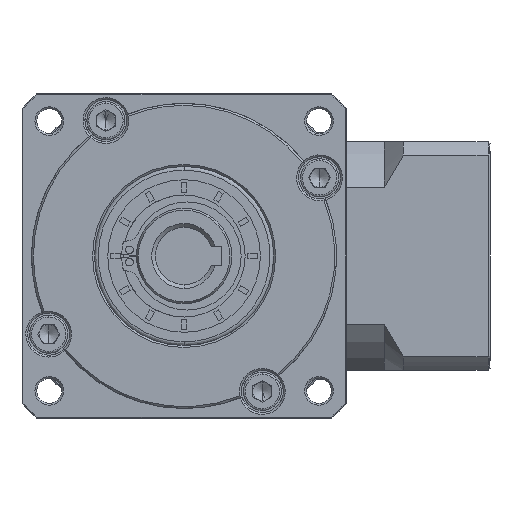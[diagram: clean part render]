
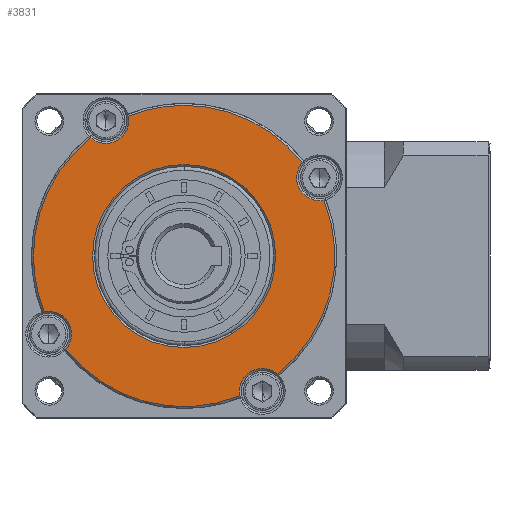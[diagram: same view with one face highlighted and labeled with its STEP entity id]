
A CAD part, left-side view. The second image highlights one B-rep face of the part: STEP entity #3831.
In plain terms, the highlighted planar face has unit normal (-1, 0, 0).
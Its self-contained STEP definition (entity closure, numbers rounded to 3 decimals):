
#135 = CARTESIAN_POINT ( 'NONE',  ( -86.29, -31.689, -122.437 ) ) ;
#724 = CARTESIAN_POINT ( 'NONE',  ( -86.29, -43.196, -107.937 ) ) ;
#1676 = VERTEX_POINT ( 'NONE', #103429 ) ;
#2286 = CARTESIAN_POINT ( 'NONE',  ( -86.29, -32.158, -153.444 ) ) ;
#3831 = ADVANCED_FACE ( 'NONE', ( #99800, #30374 ), #52690, .T. ) ;
#4969 = CARTESIAN_POINT ( 'NONE',  ( -86.29, -44.384, -107.818 ) ) ;
#5337 = DIRECTION ( 'NONE',  ( 1., 0., 0. ) ) ;
#6889 = EDGE_CURVE ( 'NONE', #140964, #48089, #34368, .T. ) ;
#7845 = DIRECTION ( 'NONE',  ( 1., 0., 0. ) ) ;
#8942 = CARTESIAN_POINT ( 'NONE',  ( -86.29, 27.818, -142.937 ) ) ;
#9012 = AXIS2_PLACEMENT_3D ( 'NONE', #76990, #168360, #90150 ) ;
#9733 = CARTESIAN_POINT ( 'NONE',  ( -86.29, 6.93, -85.741 ) ) ;
#10819 = VERTEX_POINT ( 'NONE', #44426 ) ;
#12511 = CARTESIAN_POINT ( 'NONE',  ( -86.29, -7.689, -82.937 ) ) ;
#14133 = VERTEX_POINT ( 'NONE', #69562 ) ;
#15595 = CIRCLE ( 'NONE', #115659, 39.5 ) ;
#15614 = EDGE_CURVE ( 'NONE', #113760, #24651, #130511, .T. ) ;
#17605 = AXIS2_PLACEMENT_3D ( 'NONE', #153493, #75264, #166673 ) ;
#22971 = ORIENTED_EDGE ( 'NONE', *, *, #163489, .F. ) ;
#24651 = VERTEX_POINT ( 'NONE', #724 ) ;
#25048 = AXIS2_PLACEMENT_3D ( 'NONE', #8942, #37036, #128346 ) ;
#30374 = FACE_BOUND ( 'NONE', #101115, .T. ) ;
#30471 = ORIENTED_EDGE ( 'NONE', *, *, #91103, .T. ) ;
#31683 = VERTEX_POINT ( 'NONE', #150695 ) ;
#32507 = EDGE_CURVE ( 'NONE', #158610, #1676, #15595, .T. ) ;
#33479 = ORIENTED_EDGE ( 'NONE', *, *, #141081, .T. ) ;
#34368 = CIRCLE ( 'NONE', #113489, 24. ) ;
#37036 = DIRECTION ( 'NONE',  ( 1., 0., 0. ) ) ;
#37195 = EDGE_CURVE ( 'NONE', #105732, #31683, #51547, .T. ) ;
#41074 = VERTEX_POINT ( 'NONE', #9733 ) ;
#41982 = DIRECTION ( 'NONE',  ( 1., 0., 0. ) ) ;
#43086 = EDGE_CURVE ( 'NONE', #41074, #105732, #44132, .T. ) ;
#44132 = CIRCLE ( 'NONE', #49722, 6. ) ;
#44426 = CARTESIAN_POINT ( 'NONE',  ( -86.29, 31.811, -122.437 ) ) ;
#45017 = ORIENTED_EDGE ( 'NONE', *, *, #141707, .F. ) ;
#45933 = VERTEX_POINT ( 'NONE', #57334 ) ;
#46054 = CIRCLE ( 'NONE', #101722, 6. ) ;
#47617 = CIRCLE ( 'NONE', #60407, 39.5 ) ;
#48089 = VERTEX_POINT ( 'NONE', #121733 ) ;
#49722 = AXIS2_PLACEMENT_3D ( 'NONE', #150804, #72613, #163984 ) ;
#51547 = CIRCLE ( 'NONE', #133987, 6. ) ;
#52690 = PLANE ( 'NONE',  #55059 ) ;
#55059 = AXIS2_PLACEMENT_3D ( 'NONE', #144677, #66450, #157760 ) ;
#57334 = CARTESIAN_POINT ( 'NONE',  ( -86.29, 23.319, -146.906 ) ) ;
#58005 = CARTESIAN_POINT ( 'NONE',  ( -86.29, -7.689, -122.437 ) ) ;
#59996 = CARTESIAN_POINT ( 'NONE',  ( -86.29, -43.196, -101.937 ) ) ;
#60407 = AXIS2_PLACEMENT_3D ( 'NONE', #58005, #149360, #71139 ) ;
#60531 = DIRECTION ( 'NONE',  ( 1., 0., 0. ) ) ;
#61445 = VERTEX_POINT ( 'NONE', #74864 ) ;
#62649 = AXIS2_PLACEMENT_3D ( 'NONE', #59996, #151324, #73110 ) ;
#64039 = VERTEX_POINT ( 'NONE', #2286 ) ;
#65746 = DIRECTION ( 'NONE',  ( 1., 0., 0. ) ) ;
#66450 = DIRECTION ( 'NONE',  ( -1., 0., 0. ) ) ;
#67914 = EDGE_CURVE ( 'NONE', #10819, #31683, #163674, .T. ) ;
#69509 = DIRECTION ( 'NONE',  ( 1., 0., 0. ) ) ;
#69562 = CARTESIAN_POINT ( 'NONE',  ( -86.29, 29.007, -137.055 ) ) ;
#70671 = DIRECTION ( 'NONE',  ( 1., 0., 0. ) ) ;
#71139 = DIRECTION ( 'NONE',  ( 0., 0., 1. ) ) ;
#71876 = ORIENTED_EDGE ( 'NONE', *, *, #128595, .F. ) ;
#72613 = DIRECTION ( 'NONE',  ( 1., 0., 0. ) ) ;
#73110 = DIRECTION ( 'NONE',  ( 0., 0., -1. ) ) ;
#74205 = CARTESIAN_POINT ( 'NONE',  ( -86.29, -7.689, -122.437 ) ) ;
#74864 = CARTESIAN_POINT ( 'NONE',  ( -86.29, -22.308, -159.132 ) ) ;
#75264 = DIRECTION ( 'NONE',  ( 1., 0., 0. ) ) ;
#76551 = AXIS2_PLACEMENT_3D ( 'NONE', #74205, #165613, #87358 ) ;
#76990 = CARTESIAN_POINT ( 'NONE',  ( -86.29, -43.196, -101.937 ) ) ;
#83567 = CARTESIAN_POINT ( 'NONE',  ( -86.29, -28.189, -157.944 ) ) ;
#83823 = CIRCLE ( 'NONE', #158131, 24. ) ;
#84109 = AXIS2_PLACEMENT_3D ( 'NONE', #143977, #65746, #157059 ) ;
#86090 = CARTESIAN_POINT ( 'NONE',  ( -86.29, -7.689, -122.437 ) ) ;
#87358 = DIRECTION ( 'NONE',  ( 0., 1., 0. ) ) ;
#90150 = DIRECTION ( 'NONE',  ( 0., 0., -1. ) ) ;
#91103 = EDGE_CURVE ( 'NONE', #61445, #64039, #46054, .T. ) ;
#96718 = DIRECTION ( 'NONE',  ( 0., 0., -1. ) ) ;
#97696 = CIRCLE ( 'NONE', #111528, 39.5 ) ;
#98016 = EDGE_CURVE ( 'NONE', #48089, #140964, #83823, .T. ) ;
#99194 = DIRECTION ( 'NONE',  ( 0., 0., 1. ) ) ;
#99800 = FACE_OUTER_BOUND ( 'NONE', #142716, .T. ) ;
#101115 = EDGE_LOOP ( 'NONE', ( #125132, #137143 ) ) ;
#101722 = AXIS2_PLACEMENT_3D ( 'NONE', #83567, #5337, #96718 ) ;
#103429 = CARTESIAN_POINT ( 'NONE',  ( -86.29, -38.697, -97.967 ) ) ;
#105732 = VERTEX_POINT ( 'NONE', #162618 ) ;
#111528 = AXIS2_PLACEMENT_3D ( 'NONE', #120126, #41982, #133312 ) ;
#111728 = ORIENTED_EDGE ( 'NONE', *, *, #156587, .F. ) ;
#113489 = AXIS2_PLACEMENT_3D ( 'NONE', #147746, #69509, #160835 ) ;
#113760 = VERTEX_POINT ( 'NONE', #4969 ) ;
#115659 = AXIS2_PLACEMENT_3D ( 'NONE', #86090, #7845, #99194 ) ;
#120126 = CARTESIAN_POINT ( 'NONE',  ( -86.29, -7.689, -122.437 ) ) ;
#121346 = ORIENTED_EDGE ( 'NONE', *, *, #37195, .T. ) ;
#121733 = CARTESIAN_POINT ( 'NONE',  ( -86.29, 16.311, -122.437 ) ) ;
#125132 = ORIENTED_EDGE ( 'NONE', *, *, #6889, .T. ) ;
#128346 = DIRECTION ( 'NONE',  ( 0., 0., -1. ) ) ;
#128595 = EDGE_CURVE ( 'NONE', #61445, #45933, #132459, .T. ) ;
#130511 = CIRCLE ( 'NONE', #9012, 6. ) ;
#131592 = ORIENTED_EDGE ( 'NONE', *, *, #15614, .T. ) ;
#132459 = CIRCLE ( 'NONE', #84109, 39.5 ) ;
#133312 = DIRECTION ( 'NONE',  ( 0., 1., 0. ) ) ;
#133987 = AXIS2_PLACEMENT_3D ( 'NONE', #148887, #70671, #162007 ) ;
#137143 = ORIENTED_EDGE ( 'NONE', *, *, #98016, .T. ) ;
#137792 = CIRCLE ( 'NONE', #62649, 6. ) ;
#138729 = CARTESIAN_POINT ( 'NONE',  ( -86.29, -7.689, -122.437 ) ) ;
#140964 = VERTEX_POINT ( 'NONE', #135 ) ;
#141081 = EDGE_CURVE ( 'NONE', #14133, #45933, #155372, .T. ) ;
#141707 = EDGE_CURVE ( 'NONE', #14133, #10819, #97696, .T. ) ;
#142716 = EDGE_LOOP ( 'NONE', ( #22971, #167130, #121346, #169575, #45017, #33479, #71876, #30471, #111728, #131592, #150361, #151080 ) ) ;
#143977 = CARTESIAN_POINT ( 'NONE',  ( -86.29, -7.689, -122.437 ) ) ;
#144677 = CARTESIAN_POINT ( 'NONE',  ( -86.29, -7.689, -122.437 ) ) ;
#147746 = CARTESIAN_POINT ( 'NONE',  ( -86.29, -7.689, -122.437 ) ) ;
#148887 = CARTESIAN_POINT ( 'NONE',  ( -86.29, 12.811, -86.929 ) ) ;
#149360 = DIRECTION ( 'NONE',  ( 1., 0., 0. ) ) ;
#150361 = ORIENTED_EDGE ( 'NONE', *, *, #151575, .T. ) ;
#150695 = CARTESIAN_POINT ( 'NONE',  ( -86.29, 16.781, -91.429 ) ) ;
#150804 = CARTESIAN_POINT ( 'NONE',  ( -86.29, 12.811, -86.929 ) ) ;
#151080 = ORIENTED_EDGE ( 'NONE', *, *, #32507, .F. ) ;
#151324 = DIRECTION ( 'NONE',  ( 1., 0., 0. ) ) ;
#151575 = EDGE_CURVE ( 'NONE', #24651, #1676, #137792, .T. ) ;
#151845 = DIRECTION ( 'NONE',  ( 0., -1., 0. ) ) ;
#153493 = CARTESIAN_POINT ( 'NONE',  ( -86.29, -7.689, -122.437 ) ) ;
#155372 = CIRCLE ( 'NONE', #25048, 6. ) ;
#156079 = CIRCLE ( 'NONE', #17605, 39.5 ) ;
#156587 = EDGE_CURVE ( 'NONE', #113760, #64039, #156079, .T. ) ;
#157059 = DIRECTION ( 'NONE',  ( 0., 0., 1. ) ) ;
#157760 = DIRECTION ( 'NONE',  ( 0., 0., -1. ) ) ;
#158131 = AXIS2_PLACEMENT_3D ( 'NONE', #138729, #60531, #151845 ) ;
#158610 = VERTEX_POINT ( 'NONE', #12511 ) ;
#160835 = DIRECTION ( 'NONE',  ( 0., -1., 0. ) ) ;
#162007 = DIRECTION ( 'NONE',  ( 0., 0., -1. ) ) ;
#162618 = CARTESIAN_POINT ( 'NONE',  ( -86.29, 12.811, -92.929 ) ) ;
#163489 = EDGE_CURVE ( 'NONE', #41074, #158610, #47617, .T. ) ;
#163674 = CIRCLE ( 'NONE', #76551, 39.5 ) ;
#163984 = DIRECTION ( 'NONE',  ( 0., 0., -1. ) ) ;
#165613 = DIRECTION ( 'NONE',  ( 1., 0., 0. ) ) ;
#166673 = DIRECTION ( 'NONE',  ( 0., 0., 1. ) ) ;
#167130 = ORIENTED_EDGE ( 'NONE', *, *, #43086, .T. ) ;
#168360 = DIRECTION ( 'NONE',  ( 1., 0., 0. ) ) ;
#169575 = ORIENTED_EDGE ( 'NONE', *, *, #67914, .F. ) ;
